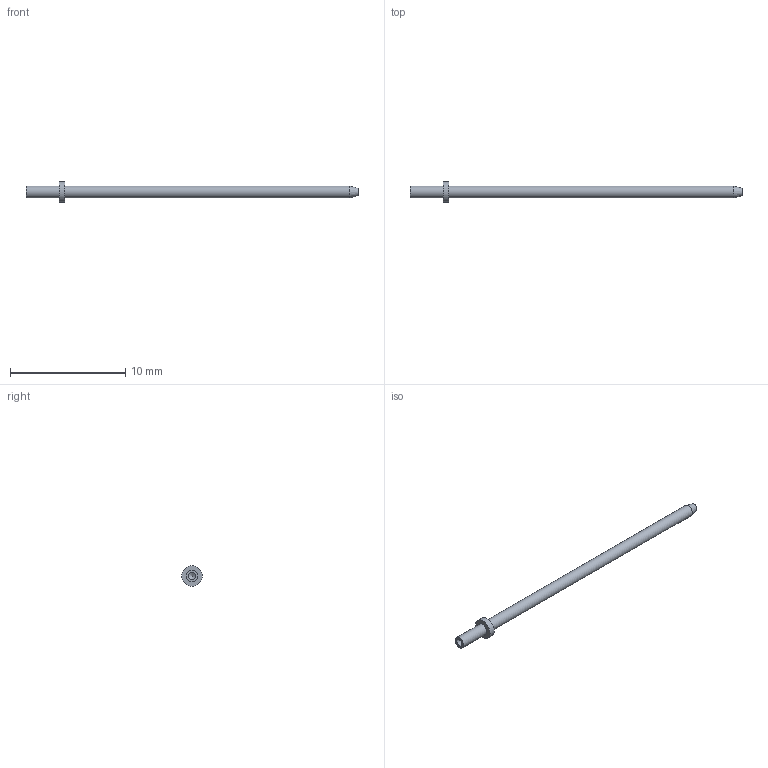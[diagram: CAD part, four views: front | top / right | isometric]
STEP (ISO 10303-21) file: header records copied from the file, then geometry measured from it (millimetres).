
FILE_DESCRIPTION(/* description */ (''),/* implementation_level */ '2;1');
FILE_NAME(/* name */ 'Z:\STEP folder\460294803.ipt.stp',/* time_stamp */ '2016-12-21T13:04:43+00:00',/* author */ ('Paul Karlsons'),/* organization */ (''),/* preprocessor_version */ 'ST-DEVELOPER v15.2',/* originating_system */ 'Autodesk Inventor 2014',/* authorisation */ '');
FILE_SCHEMA (('AUTOMOTIVE_DESIGN { 1 0 10303 214 3 1 1 }'));
Length unit declared in the file: millimetre
Products named in the file (1): 460294803
Bounding box: 28.78 x 1.78 x 1.78 mm (x, y, z)
Volume: 23.7 mm3; surface area: 99.3 mm2
Topology: 1 solids, 1 shells, 10 faces, 16 edges, 10 vertices
Faces by surface type: cylinder 4, plane 4, cone 2
Full cylindrical faces by diameter (mm): 0.635 x1, 1.016 x2, 1.778 x1
Entity records: 215 total; most frequent: DIRECTION 40, CARTESIAN_POINT 29, AXIS2_PLACEMENT_3D 20, EDGE_LOOP 18, ORIENTED_EDGE 18, FACE_BOUND 10, ADVANCED_FACE 10, CIRCLE 9
